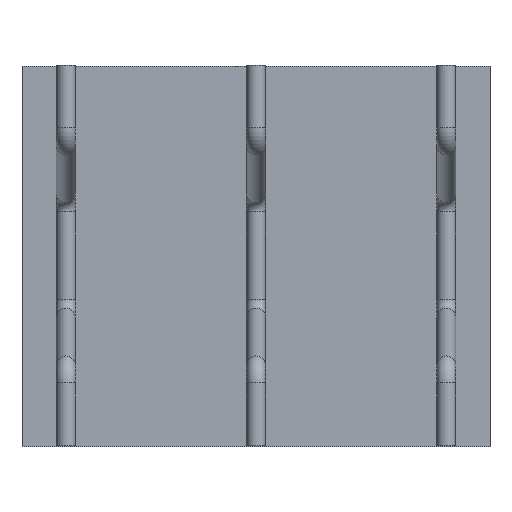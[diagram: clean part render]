
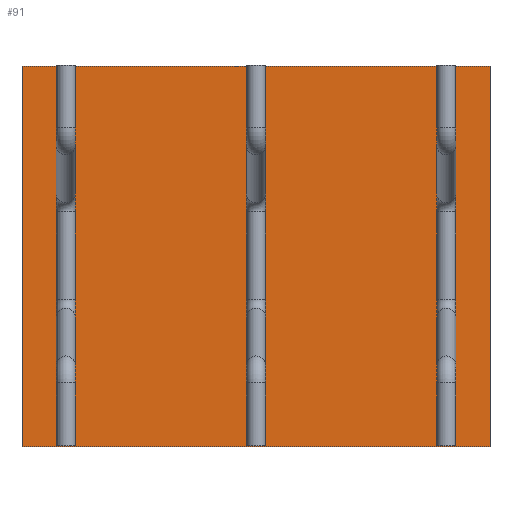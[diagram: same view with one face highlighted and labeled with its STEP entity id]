
A CAD part, top view. The second image highlights one B-rep face of the part: STEP entity #91.
In plain terms, the highlighted planar face has unit normal (0, 0, 1).
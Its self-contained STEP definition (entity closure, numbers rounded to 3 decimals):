
#52=CARTESIAN_POINT('Axis2P3D Location',(0.,0.,0.)) ;
#57=CARTESIAN_POINT('Line Origine',(0.,500.,0.)) ;
#61=CARTESIAN_POINT('Vertex',(615.,500.,0.)) ;
#63=CARTESIAN_POINT('Vertex',(-615.,500.,0.)) ;
#66=CARTESIAN_POINT('Line Origine',(-615.,0.,0.)) ;
#70=CARTESIAN_POINT('Vertex',(-615.,-500.,0.)) ;
#73=CARTESIAN_POINT('Line Origine',(0.,-500.,0.)) ;
#77=CARTESIAN_POINT('Vertex',(615.,-500.,0.)) ;
#80=CARTESIAN_POINT('Line Origine',(615.,0.,0.)) ;
#53=DIRECTION('Axis2P3D Direction',(0.,0.,1.)) ;
#54=DIRECTION('Axis2P3D XDirection',(1.,0.,0.)) ;
#58=DIRECTION('Vector Direction',(1.,0.,0.)) ;
#67=DIRECTION('Vector Direction',(0.,1.,0.)) ;
#74=DIRECTION('Vector Direction',(-1.,0.,0.)) ;
#81=DIRECTION('Vector Direction',(0.,-1.,0.)) ;
#55=AXIS2_PLACEMENT_3D('Plane Axis2P3D',#52,#53,#54) ;
#86=ORIENTED_EDGE('',*,*,#65,.T.) ;
#87=ORIENTED_EDGE('',*,*,#72,.T.) ;
#88=ORIENTED_EDGE('',*,*,#79,.T.) ;
#89=ORIENTED_EDGE('',*,*,#84,.T.) ;
#59=VECTOR('Line Direction',#58,1.) ;
#68=VECTOR('Line Direction',#67,1.) ;
#75=VECTOR('Line Direction',#74,1.) ;
#82=VECTOR('Line Direction',#81,1.) ;
#91=ADVANCED_FACE('Fill.1',(#90),#56,.T.) ;
#65=EDGE_CURVE('',#62,#64,#60,.F.) ;
#72=EDGE_CURVE('',#64,#71,#69,.F.) ;
#79=EDGE_CURVE('',#71,#78,#76,.F.) ;
#84=EDGE_CURVE('',#78,#62,#83,.F.) ;
#85=EDGE_LOOP('',(#86,#87,#88,#89)) ;
#90=FACE_OUTER_BOUND('',#85,.T.) ;
#60=LINE('Line',#57,#59) ;
#69=LINE('Line',#66,#68) ;
#76=LINE('Line',#73,#75) ;
#83=LINE('Line',#80,#82) ;
#56=PLANE('',#55) ;
#62=VERTEX_POINT('',#61) ;
#64=VERTEX_POINT('',#63) ;
#71=VERTEX_POINT('',#70) ;
#78=VERTEX_POINT('',#77) ;
